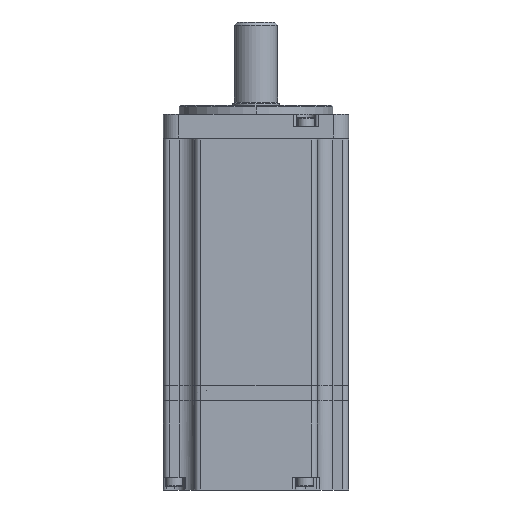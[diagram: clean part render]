
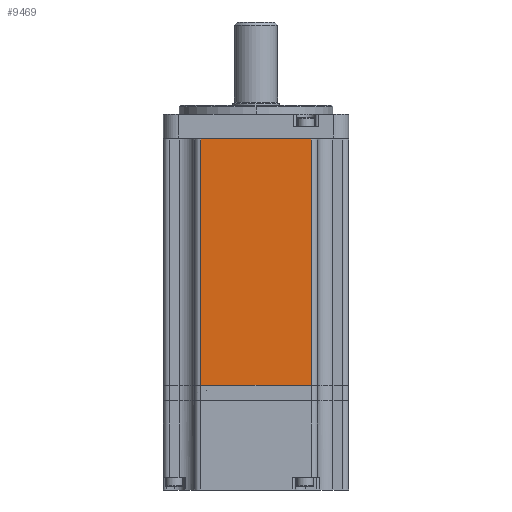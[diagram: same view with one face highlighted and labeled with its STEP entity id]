
A CAD part, front view. The second image highlights one B-rep face of the part: STEP entity #9469.
In plain terms, the highlighted planar face has unit normal (0, -1, 0).
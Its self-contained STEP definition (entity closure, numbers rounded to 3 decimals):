
#1784 = CARTESIAN_POINT ( 'NONE',  ( -18., -30.1, 80. ) ) ;
#1785 = CARTESIAN_POINT ( 'NONE',  ( 18., -30.1, 80. ) ) ;
#1791 = CARTESIAN_POINT ( 'NONE',  ( -18., -30.1, 0. ) ) ;
#1794 = CARTESIAN_POINT ( 'NONE',  ( 18., -30.1, 0. ) ) ;
#9469 = ADVANCED_FACE ( 'NONE', ( #27553 ), #32064, .F. ) ;
#13381 = EDGE_CURVE ( 'NONE', #15927, #15928, #38738, .T. ) ;
#13396 = EDGE_CURVE ( 'NONE', #15934, #15937, #38758, .T. ) ;
#13417 = EDGE_CURVE ( 'NONE', #15937, #15928, #38790, .T. ) ;
#13418 = EDGE_CURVE ( 'NONE', #15927, #15934, #38792, .T. ) ;
#15927 = VERTEX_POINT ( 'NONE', #1784 ) ;
#15928 = VERTEX_POINT ( 'NONE', #1785 ) ;
#15934 = VERTEX_POINT ( 'NONE', #1791 ) ;
#15937 = VERTEX_POINT ( 'NONE', #1794 ) ;
#17094 = ORIENTED_EDGE ( 'NONE', *, *, #13396, .T. ) ;
#17095 = ORIENTED_EDGE ( 'NONE', *, *, #13417, .T. ) ;
#17096 = ORIENTED_EDGE ( 'NONE', *, *, #13381, .F. ) ;
#17097 = ORIENTED_EDGE ( 'NONE', *, *, #13418, .T. ) ;
#17724 = EDGE_LOOP ( 'NONE', ( #17094, #17095, #17096, #17097 ) ) ;
#27553 = FACE_OUTER_BOUND ( 'NONE', #17724, .T. ) ;
#28119 = AXIS2_PLACEMENT_3D ( 'NONE', #32060, #32066, #32067 ) ;
#32060 = CARTESIAN_POINT ( 'NONE',  ( -20., -30.1, 80. ) ) ;
#32064 = PLANE ( 'NONE',  #28119 ) ;
#32066 = DIRECTION ( 'NONE',  ( 0., 1., 0. ) ) ;
#32067 = DIRECTION ( 'NONE',  ( 0., 0., 1. ) ) ;
#38738 = LINE ( 'NONE', #44517, #38740 ) ;
#38740 = VECTOR ( 'NONE', #44518, 1000. ) ;
#38758 = LINE ( 'NONE', #44561, #38760 ) ;
#38760 = VECTOR ( 'NONE', #44556, 1000. ) ;
#38790 = LINE ( 'NONE', #44614, #38793 ) ;
#38792 = LINE ( 'NONE', #44616, #38795 ) ;
#38793 = VECTOR ( 'NONE', #44615, 1000. ) ;
#38795 = VECTOR ( 'NONE', #44617, 1000. ) ;
#44517 = CARTESIAN_POINT ( 'NONE',  ( -20., -30.1, 80. ) ) ;
#44518 = DIRECTION ( 'NONE',  ( 1., 0., 0. ) ) ;
#44556 = DIRECTION ( 'NONE',  ( 1., 0., 0. ) ) ;
#44561 = CARTESIAN_POINT ( 'NONE',  ( -20., -30.1, 0. ) ) ;
#44614 = CARTESIAN_POINT ( 'NONE',  ( 18., -30.1, 80. ) ) ;
#44615 = DIRECTION ( 'NONE',  ( 0., 0., 1. ) ) ;
#44616 = CARTESIAN_POINT ( 'NONE',  ( -18., -30.1, 80. ) ) ;
#44617 = DIRECTION ( 'NONE',  ( 0., 0., -1. ) ) ;
